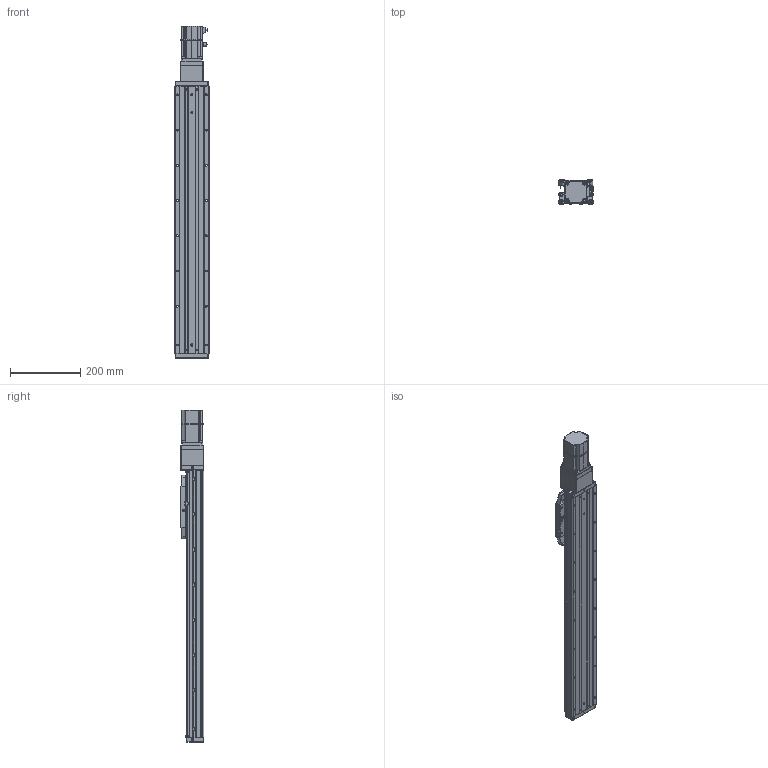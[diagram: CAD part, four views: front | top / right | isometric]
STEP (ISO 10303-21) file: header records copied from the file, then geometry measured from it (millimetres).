
FILE_DESCRIPTION (( 'STEP AP203' ), '1' );
FILE_NAME ('CTHA100-550-BC-M20-C4L.step', '2022-07-06T08:53:03', ( '微软用户' ), ( '微软中国' ), 'SwSTEP 2.0', 'SolidWorks 2020', '' );
FILE_SCHEMA (( 'CONFIG_CONTROL_DESIGN' ));
Length unit declared in the file: millimetre
Products named in the file (20): CTHA60-017; CTHA86-013; CTHA100-550-BC-M20-C4L; CTHA60-021; CTHA86-027; KTHA100-001_760; GBT77-2000 M3×3; CTHA86-006-1_CTHA86-006-2; KTHA100-004; GBT 70.1-M3℅6; GBT 70.3-M3℅6; KTHA100-005; GBT70.1 M5℅16; CTHA100-002; GB¨uT 70.2-M3¡Á5_M3¡Á6; CTHA60-016; CTHA100-031; EE_SX911P_R; _X2_4E0983F1_X0_200W_1; CTHA86-030
Assembly tree (63 placements, depth 2):
  CTHA100-550-BC-M20-C4L
    KTHA100-001_760
    KTHA100-004
    KTHA100-005
    GB¨uT 70.2-M3¡Á5_M3¡Á6  x10
    EE_SX911P_R  x3
    CTHA60-017  x3
    CTHA60-021  x2
    GBT77-2000 M3×3  x6
    GBT 70.1-M3℅6  x6
    GBT70.1 M5℅16  x14
    CTHA60-016  x2
    _X2_4E0983F1_X0_200W_1
    CTHA86-013
    CTHA86-027
    CTHA86-006-1_CTHA86-006-2
    GBT 70.3-M3℅6  x6
    CTHA100-002
    CTHA100-031
    CTHA86-030  x2
Bounding box: 98.82 x 68 x 942.5 mm (x, y, z)
Volume: 3414143.2 mm3; surface area: 597102.8 mm2
Topology: 65 solids, 65 shells, 2639 faces, 6326 edges, 3904 vertices
Faces by surface type: plane 1375, cylinder 685, cone 374, torus 112, bspline 69, sphere 24
Entity records: 45642 total; most frequent: CARTESIAN_POINT 8562, DIRECTION 7151, ORIENTED_EDGE 6924, EDGE_CURVE 3462, AXIS2_PLACEMENT_3D 2429, VECTOR 2293, LINE 2293, VERTEX_POINT 2182
